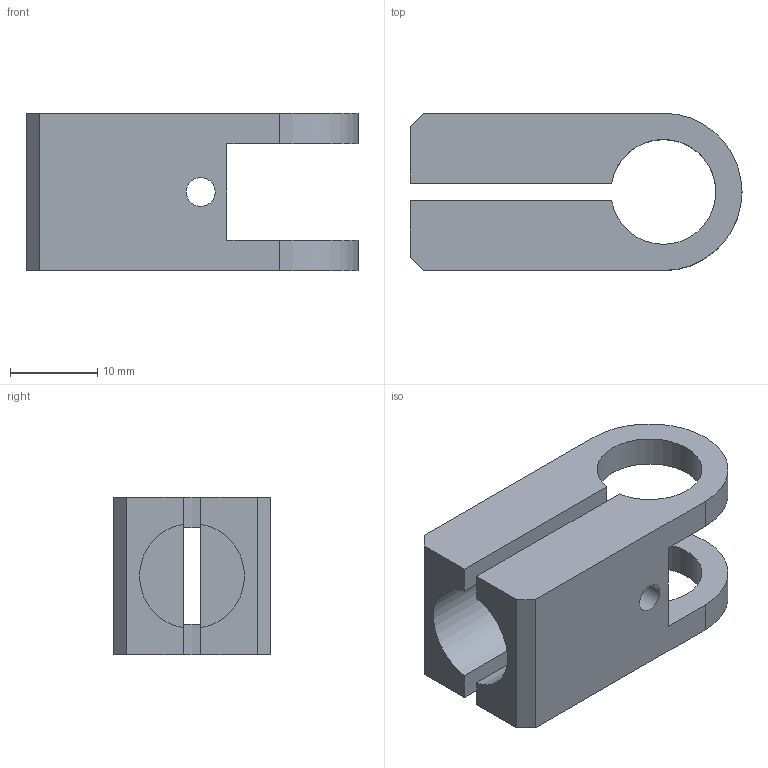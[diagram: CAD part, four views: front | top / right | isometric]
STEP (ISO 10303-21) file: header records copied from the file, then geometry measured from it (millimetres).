
FILE_DESCRIPTION (( 'STEP AP203' ), '1' );
FILE_NAME ('N01868-101(131191).STEP', '2019-09-10T07:11:25', ( '' ), ( '' ), 'SwSTEP 2.0', 'SolidWorks 2018', '' );
FILE_SCHEMA (( 'CONFIG_CONTROL_DESIGN' ));
Length unit declared in the file: millimetre
Products named in the file (2): N01868-101(131191)
Bounding box: 38 x 18 x 18 mm (x, y, z)
Volume: 5815.1 mm3; surface area: 4148.5 mm2
Topology: 1 solids, 1 shells, 24 faces, 72 edges, 48 vertices
Faces by surface type: plane 16, cylinder 8
Full cylindrical faces by diameter (mm): 3.3 x1, 4.5 x1
Entity records: 969 total; most frequent: CARTESIAN_POINT 144, ORIENTED_EDGE 140, DIRECTION 138, EDGE_CURVE 70, LINE 54, VECTOR 54, VERTEX_POINT 48, AXIS2_PLACEMENT_3D 42
